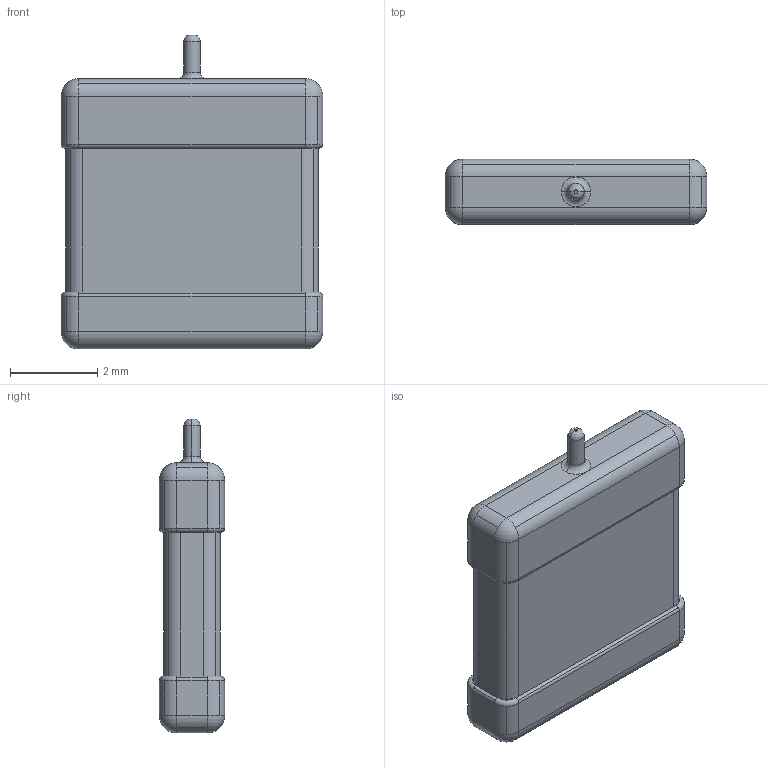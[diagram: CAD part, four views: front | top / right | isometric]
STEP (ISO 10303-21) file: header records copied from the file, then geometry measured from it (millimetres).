
FILE_DESCRIPTION((''),'2;1');
FILE_NAME('591D_R-case_15H.stp','2019-05-13T13:31:21',(''),(''),'AutoCAD STEP 2000i','AutoCAD 2000i',', , ');
FILE_SCHEMA(('CONFIG_CONTROL_DESIGN'));
Length unit declared in the file: millimetre
Products named in the file (2): 591D_R-CASE_15H; MODEL
Assembly tree (1 placements, depth 2):
  591D_R-CASE_15H
    MODEL
Bounding box: 6 x 1.5 x 7.2 mm (x, y, z)
Volume: 49.3 mm3; surface area: 101.6 mm2
Topology: 1 solids, 1 shells, 101 faces, 242 edges, 136 vertices
Faces by surface type: cylinder 58, plane 23, torus 8, sphere 8, bspline 4
Entity records: 3129 total; most frequent: CARTESIAN_POINT 649, DIRECTION 564, ORIENTED_EDGE 468, EDGE_CURVE 234, AXIS2_PLACEMENT_3D 231, VERTEX_POINT 136, CIRCLE 132, VECTOR 102
